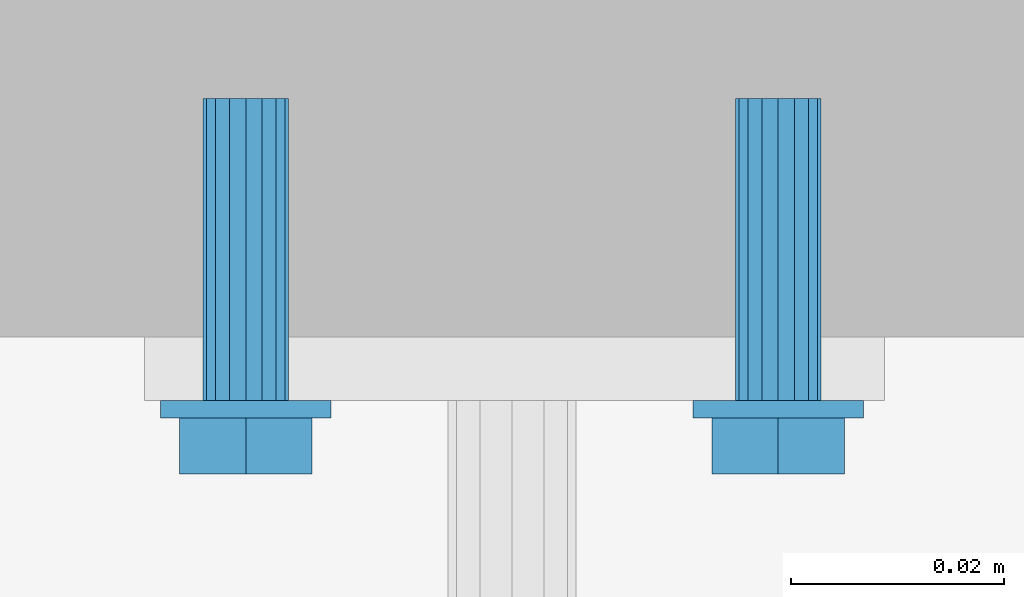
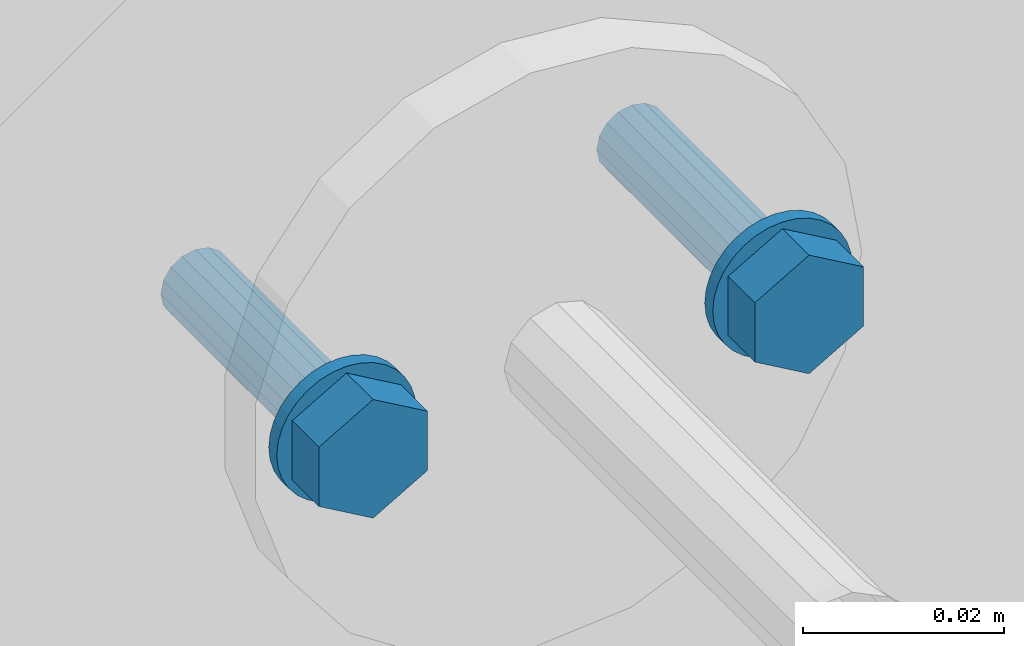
# One storey, part 368 of 410: 1 mechanical fastener.
"""IFC2X3 building model written with IfcOpenShell, lengths in millimetres."""

import ifcopenshell
import ifcopenshell.guid

model = None  # the IFC model being written
_history = None  # IfcOwnerHistory: only IFC2X3 demands one
_inside = {}  # id of a spatial element -> (the spatial element, [elements in it])
_under = {}  # id of a project, library or spatial element -> (it, [spatial elements below it])
_declared = {}  # id of a project -> (the project, [libraries it declares])
_typed = {}  # id of a type object -> (the type object, [elements of that type])
_made_of = {}  # id of a material, layer set ... -> (it, [elements and type objects made of it])


def new_model(schema):
    """Start an empty IFC model of exactly this schema.

    Asked for "IFC4X3", IfcOpenShell would pick the latest addendum, in which some entities
    have other attributes; the version numbers below select the first issue.
    IFC2X3 requires an IfcOwnerHistory on every rooted entity: one is made here for all.
    """
    global model, _history
    if schema == "IFC4X3":
        model = ifcopenshell.file(schema_version=(4, 3, 0, 0))
    else:
        model = ifcopenshell.file(schema=schema)
    _inside.clear()
    _under.clear()
    _declared.clear()
    _typed.clear()
    _made_of.clear()
    _history = None
    if model.schema == "IFC2X3":
        org = make("IfcOrganization", Name="unknown")
        user = make(
            "IfcPersonAndOrganization",
            ThePerson=make("IfcPerson", FamilyName="unknown"),
            TheOrganization=org,
        )
        app = make(
            "IfcApplication",
            ApplicationDeveloper=org,
            Version="unknown",
            ApplicationFullName="unknown",
            ApplicationIdentifier="unknown",
        )
        _history = make(
            "IfcOwnerHistory",
            OwningUser=user,
            OwningApplication=app,
            ChangeAction="ADDED",
            CreationDate=0,
        )
    return model


def make(cls, **values):
    """One entity of the class cls with the attributes given. An attribute that is None is left unset."""
    return model.create_entity(
        cls, **{name: value for name, value in values.items() if value is not None}
    )


def entity(cls, *values):
    """Any entity or typed value of the class cls, its attributes in the order of the schema. None: left unset."""
    e = model.create_entity(cls)
    for i, value in enumerate(values):
        if value is not None:
            e[i] = value
    return e


def rooted(cls, **values):
    """An entity with a GlobalId (a new one), such as an element, a storey or a relation."""
    return make(cls, GlobalId=ifcopenshell.guid.new(), OwnerHistory=_history, **values)


def si_unit(unit_type, name, prefix=None):
    """IfcSIUnit, for example si_unit("LENGTHUNIT", "METRE", prefix="MILLI")."""
    return make("IfcSIUnit", UnitType=unit_type, Prefix=prefix, Name=name)


def converted_unit(unit_type, name, factor, base, dimensions=None, offset=None):
    """IfcConversionBasedUnit, such as the inch: factor (a typed value) times the base unit."""
    return make(
        "IfcConversionBasedUnit"
        if offset is None
        else "IfcConversionBasedUnitWithOffset",
        ConversionOffset=offset,
        Dimensions=None
        if dimensions is None
        else entity("IfcDimensionalExponents", *dimensions),
        UnitType=unit_type,
        Name=name,
        ConversionFactor=make(
            "IfcMeasureWithUnit", ValueComponent=factor, UnitComponent=base
        ),
    )


def assignment(units):
    """IfcUnitAssignment: the units of a project."""
    return None if units is None else make("IfcUnitAssignment", Units=units)


def point(xyz):
    """IfcCartesianPoint."""
    return None if xyz is None else make("IfcCartesianPoint", Coordinates=xyz)


def direction(xyz):
    """IfcDirection."""
    return None if xyz is None else make("IfcDirection", DirectionRatios=xyz)


def frame(location, z_axis=None, x_axis=None):
    """IfcAxis2Placement3D, a coordinate frame: its origin and axes. An axis left out is left unset."""
    return make(
        "IfcAxis2Placement3D",
        Location=point(location),
        Axis=direction(z_axis),
        RefDirection=direction(x_axis),
    )


def origin_with_axes():
    """The frame at (0, 0, 0) with the z axis (0, 0, 1) and the x axis (1, 0, 0) written out."""
    return frame((0.0, 0.0, 0.0), z_axis=(0.0, 0.0, 1.0), x_axis=(1.0, 0.0, 0.0))


def place(relative_to, where):
    """IfcLocalPlacement: puts the frame where relative to a parent placement (None: the world)."""
    return make(
        "IfcLocalPlacement", PlacementRelTo=relative_to, RelativePlacement=where
    )


def context(
    kind, dimensions, precision=None, world=None, true_north=None, identifier=None
):
    """IfcGeometricRepresentationContext, for example the 3D "Model" context."""
    return make(
        "IfcGeometricRepresentationContext",
        ContextIdentifier=identifier,
        ContextType=kind,
        CoordinateSpaceDimension=dimensions,
        Precision=precision,
        WorldCoordinateSystem=world,
        TrueNorth=true_north,
    )


def project(units=None, contexts=None):
    """IfcProject with its units and contexts."""
    return rooted(
        "IfcProject",
        Name="project",
        RepresentationContexts=contexts,
        UnitsInContext=assignment(units),
    )


def spatial(cls, under=None, at=None, **own):
    """A site, building, storey or space (cls), placed at a placement, below another one or the project."""
    s = rooted(cls, ObjectPlacement=at, **own)
    if under is not None:
        _under.setdefault(under.id(), (under, []))[1].append(s)
    return s


def faces_of(points, faces, orient=None, outer=None):
    """IfcFace entities. A face is a list of loops; a loop is a list of indices into points, from 0.

    orient and outer hold one flag for each loop. By default every Orientation is true, the
    first loop of a face is its IfcFaceOuterBound and the others are IfcFaceBound.
    """
    made = []
    for i, loops in enumerate(faces):
        bounds = []
        for j, loop in enumerate(loops):
            is_outer = j == 0 if outer is None else outer[i][j]
            bounds.append(
                make(
                    "IfcFaceOuterBound" if is_outer else "IfcFaceBound",
                    Bound=make("IfcPolyLoop", Polygon=[points[k] for k in loop]),
                    Orientation=True if orient is None else orient[i][j],
                )
            )
        made.append(make("IfcFace", Bounds=bounds))
    return made


def faceted_brep(points, faces, orient=None, outer=None, voids=None):
    """IfcFacetedBrep: a solid bounded by flat faces; with voids (closed shells), ...WithVoids."""
    shared = [point(p) for p in points]
    hull = make("IfcClosedShell", CfsFaces=faces_of(shared, faces, orient, outer))
    if voids is None:
        return make("IfcFacetedBrep", Outer=hull)
    return make(
        "IfcFacetedBrepWithVoids",
        Outer=hull,
        Voids=[
            make(cls, CfsFaces=faces_of(shared, fs, o, b)) for cls, fs, o, b in voids
        ],
    )


def shape(context_of_items, identifier, shape_type, items):
    """IfcShapeRepresentation: the items that make up one representation, for example the "Body"."""
    return make(
        "IfcShapeRepresentation",
        ContextOfItems=context_of_items,
        RepresentationIdentifier=identifier,
        RepresentationType=shape_type,
        Items=items,
    )


def made_of(thing, what):
    """Note that an element or type object is made of a material, layer set ...; save() writes the relation."""
    if what is not None:
        _made_of.setdefault(what.id(), (what, []))[1].append(thing)
    return thing


def element(
    cls,
    number,
    at=None,
    inside=None,
    cuts=None,
    type_object=None,
    material=None,
    context=None,
    identifier="Body",
    shape_type=None,
    held_by="IfcProductDefinitionShape",
    body=None,
    shapes=None,
    **own,
):
    """One element of the class cls, such as IfcWall. Its Tag is "e" and its number.

    at: its placement. inside: the storey or other place that contains it. cuts: it is an
    opening in that element (IfcRelVoidsElement). A single representation is given by context,
    identifier, shape_type and body (its items); several are given by shapes. held_by: the class
    of the entity that holds the representations. save() writes the other relations.
    """
    e = rooted(cls, Tag="e%d" % number, ObjectPlacement=at, **own)
    if body is not None:
        shapes = [shape(context, identifier, shape_type, body)]
    if shapes is not None:
        e.Representation = make(held_by, Representations=shapes)
    if inside is not None:
        _inside.setdefault(inside.id(), (inside, []))[1].append(e)
    if cuts is not None:
        rooted(
            "IfcRelVoidsElement", RelatingBuildingElement=cuts, RelatedOpeningElement=e
        )
    if type_object is not None:
        _typed.setdefault(type_object.id(), (type_object, []))[1].append(e)
    return made_of(e, material)


def aggregate(whole, parts):
    """IfcRelAggregates: a whole, such as a stair, and the parts it consists of."""
    return rooted("IfcRelAggregates", RelatingObject=whole, RelatedObjects=parts)


def save(model, path):
    """Write the relations noted so far, then the file.

    IfcRelAggregates (storeys below a building ...), IfcRelContainedInSpatialStructure (elements
    in a storey), IfcRelDefinesByType, IfcRelAssociatesMaterial and IfcRelDeclares: one each for
    every whole, place, type object, material and project.
    """
    for whole, parts in _under.values():
        aggregate(whole, parts)
    for where, things in _inside.values():
        rooted(
            "IfcRelContainedInSpatialStructure",
            RelatedElements=things,
            RelatingStructure=where,
        )
    for kind, things in _typed.values():
        rooted("IfcRelDefinesByType", RelatedObjects=things, RelatingType=kind)
    for what, things in _made_of.values():
        rooted("IfcRelAssociatesMaterial", RelatedObjects=things, RelatingMaterial=what)
    for by, libraries in _declared.values():
        rooted("IfcRelDeclares", RelatingContext=by, RelatedDefinitions=libraries)
    model.write(path)


model = new_model("IFC2X3")

# Units and contexts
model_context = context("Model", 3, precision=1e-09, world=origin_with_axes())
ifc_project = project(units=[si_unit("LENGTHUNIT", "METRE", prefix="MILLI"), si_unit("AREAUNIT", "SQUARE_METRE"), si_unit("VOLUMEUNIT", "CUBIC_METRE"), converted_unit("PLANEANGLEUNIT", "DEGREE", entity("IfcPlaneAngleMeasure", 0.01745329), si_unit("PLANEANGLEUNIT", "RADIAN"), dimensions=[0, 0, 0, 0, 0, 0, 0])], contexts=[model_context])

# Site, building, storey
site_placement = place(None, origin_with_axes())
site = spatial("IfcSite", under=ifc_project, at=site_placement, Name="mKR Teilneubau & Sanierung BA1 - Ostfildern", CompositionType="ELEMENT")
building_placement = place(site_placement, origin_with_axes())
building = spatial("IfcBuilding", under=site, at=building_placement, Name="Struktur 1", CompositionType="ELEMENT")
storey_placement = place(building_placement, origin_with_axes())
storey = spatial("IfcBuildingStorey", under=building, at=storey_placement, Name="Default Storey", CompositionType="ELEMENT", Elevation=0.0)

# Mechanical fastener
mechanical_fastener_placement = place(None, origin_with_axes())
element("IfcMechanicalFastener", 1, at=mechanical_fastener_placement, inside=storey, ObjectType="-", NominalDiameter=8.0, NominalLength=30.0, context=model_context, shape_type="Brep", body=[
    faceted_brep([(3126.999216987, 18612.400061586, 2645.6434785), (3126.999216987, 18614.000061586, 2645.6434785), (3127.152934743, 18614.000061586, 2644.082755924), (3127.152934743, 18612.400061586, 2644.082755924), (3127.608180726, 18614.000061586, 2642.582011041), (3127.608180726, 18612.400061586, 2642.582011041), (3128.347460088, 18614.000061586, 2641.198916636), (3128.347460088, 18612.400061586, 2641.198916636), (3129.342362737, 18614.000061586, 2639.98662425), (3129.342362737, 18612.400061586, 2639.98662425), (3130.554655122, 18614.000061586, 2638.991721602), (3130.554655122, 18612.400061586, 2638.991721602), (3131.937749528, 18614.000061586, 2638.25244224), (3131.937749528, 18612.400061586, 2638.25244224), (3133.43849441, 18614.000061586, 2637.797196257), (3133.43849441, 18612.400061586, 2637.797196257), (3134.999216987, 18614.000061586, 2637.6434785), (3134.999216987, 18612.400061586, 2637.6434785), (3136.559939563, 18614.000061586, 2637.797196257), (3136.559939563, 18612.400061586, 2637.797196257), (3138.060684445, 18614.000061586, 2638.25244224), (3138.060684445, 18612.400061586, 2638.25244224), (3139.443778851, 18614.000061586, 2638.991721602), (3139.443778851, 18612.400061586, 2638.991721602), (3140.656071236, 18614.000061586, 2639.98662425), (3140.656071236, 18612.400061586, 2639.98662425), (3141.650973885, 18614.000061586, 2641.198916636), (3141.650973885, 18612.400061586, 2641.198916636), (3142.390253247, 18614.000061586, 2642.582011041), (3142.390253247, 18612.400061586, 2642.582011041), (3142.84549923, 18614.000061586, 2644.082755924), (3142.84549923, 18612.400061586, 2644.082755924), (3142.999216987, 18614.000061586, 2645.6434785), (3142.999216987, 18612.400061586, 2645.6434785), (3142.84549923, 18614.000061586, 2647.204201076), (3142.84549923, 18612.400061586, 2647.204201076), (3142.390253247, 18614.000061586, 2648.704945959), (3142.390253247, 18612.400061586, 2648.704945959), (3141.650973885, 18614.000061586, 2650.088040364), (3141.650973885, 18612.400061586, 2650.088040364), (3140.656071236, 18614.000061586, 2651.300332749), (3140.656071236, 18612.400061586, 2651.300332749), (3139.443778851, 18614.000061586, 2652.295235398), (3139.443778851, 18612.400061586, 2652.295235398), (3138.060684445, 18614.000061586, 2653.03451476), (3138.060684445, 18612.400061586, 2653.03451476), (3136.559939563, 18614.000061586, 2653.489760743), (3136.559939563, 18612.400061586, 2653.489760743), (3134.999216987, 18614.000061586, 2653.6434785), (3134.999216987, 18612.400061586, 2653.6434785), (3133.43849441, 18614.000061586, 2653.489760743), (3133.43849441, 18612.400061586, 2653.489760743), (3131.937749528, 18614.000061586, 2653.03451476), (3131.937749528, 18612.400061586, 2653.03451476), (3130.554655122, 18614.000061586, 2652.295235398), (3130.554655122, 18612.400061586, 2652.295235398), (3129.342362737, 18614.000061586, 2651.300332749), (3129.342362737, 18612.400061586, 2651.300332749), (3128.347460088, 18614.000061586, 2650.088040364), (3128.347460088, 18612.400061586, 2650.088040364), (3127.608180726, 18614.000061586, 2648.704945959), (3127.608180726, 18612.400061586, 2648.704945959), (3127.152934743, 18614.000061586, 2647.204201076), (3127.152934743, 18612.400061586, 2647.204201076)], [[[0, 1, 2, 3]], [[3, 2, 4, 5]], [[5, 4, 6, 7]], [[7, 6, 8, 9]], [[9, 8, 10, 11]], [[11, 10, 12, 13]], [[13, 12, 14, 15]], [[15, 14, 16, 17]], [[17, 16, 18, 19]], [[19, 18, 20, 21]], [[21, 20, 22, 23]], [[23, 22, 24, 25]], [[25, 24, 26, 27]], [[27, 26, 28, 29]], [[29, 28, 30, 31]], [[31, 30, 32, 33]], [[33, 32, 34, 35]], [[35, 34, 36, 37]], [[37, 36, 38, 39]], [[39, 38, 40, 41]], [[41, 40, 42, 43]], [[43, 42, 44, 45]], [[45, 44, 46, 47]], [[47, 46, 48, 49]], [[49, 48, 50, 51]], [[51, 50, 52, 53]], [[53, 52, 54, 55]], [[55, 54, 56, 57]], [[57, 56, 58, 59]], [[59, 58, 60, 61]], [[61, 60, 62, 63]], [[63, 62, 1, 0]], [[0, 3, 5, 7, 9, 11, 13, 15, 17, 19, 21, 23, 25, 27, 29, 31, 33, 35, 37, 39, 41, 43, 45, 47, 49, 51, 53, 55, 57, 59, 61, 63]], [[1, 62, 60, 58, 56, 54, 52, 50, 48, 46, 44, 42, 40, 38, 36, 34, 32, 30, 28, 26, 24, 22, 20, 18, 16, 14, 12, 10, 8, 6, 4, 2]]]),
    faceted_brep([(3076.999216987, 18612.400061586, 2645.6434785), (3076.999216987, 18614.000061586, 2645.6434785), (3077.152934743, 18614.000061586, 2644.082755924), (3077.152934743, 18612.400061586, 2644.082755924), (3077.608180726, 18614.000061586, 2642.582011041), (3077.608180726, 18612.400061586, 2642.582011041), (3078.347460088, 18614.000061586, 2641.198916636), (3078.347460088, 18612.400061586, 2641.198916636), (3079.342362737, 18614.000061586, 2639.98662425), (3079.342362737, 18612.400061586, 2639.98662425), (3080.554655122, 18614.000061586, 2638.991721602), (3080.554655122, 18612.400061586, 2638.991721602), (3081.937749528, 18614.000061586, 2638.25244224), (3081.937749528, 18612.400061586, 2638.25244224), (3083.43849441, 18614.000061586, 2637.797196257), (3083.43849441, 18612.400061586, 2637.797196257), (3084.999216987, 18614.000061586, 2637.6434785), (3084.999216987, 18612.400061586, 2637.6434785), (3086.559939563, 18614.000061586, 2637.797196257), (3086.559939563, 18612.400061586, 2637.797196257), (3088.060684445, 18614.000061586, 2638.25244224), (3088.060684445, 18612.400061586, 2638.25244224), (3089.443778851, 18614.000061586, 2638.991721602), (3089.443778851, 18612.400061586, 2638.991721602), (3090.656071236, 18614.000061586, 2639.98662425), (3090.656071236, 18612.400061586, 2639.98662425), (3091.650973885, 18614.000061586, 2641.198916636), (3091.650973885, 18612.400061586, 2641.198916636), (3092.390253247, 18614.000061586, 2642.582011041), (3092.390253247, 18612.400061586, 2642.582011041), (3092.84549923, 18614.000061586, 2644.082755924), (3092.84549923, 18612.400061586, 2644.082755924), (3092.999216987, 18614.000061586, 2645.6434785), (3092.999216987, 18612.400061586, 2645.6434785), (3092.84549923, 18614.000061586, 2647.204201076), (3092.84549923, 18612.400061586, 2647.204201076), (3092.390253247, 18614.000061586, 2648.704945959), (3092.390253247, 18612.400061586, 2648.704945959), (3091.650973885, 18614.000061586, 2650.088040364), (3091.650973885, 18612.400061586, 2650.088040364), (3090.656071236, 18614.000061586, 2651.300332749), (3090.656071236, 18612.400061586, 2651.300332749), (3089.443778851, 18614.000061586, 2652.295235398), (3089.443778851, 18612.400061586, 2652.295235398), (3088.060684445, 18614.000061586, 2653.03451476), (3088.060684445, 18612.400061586, 2653.03451476), (3086.559939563, 18614.000061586, 2653.489760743), (3086.559939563, 18612.400061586, 2653.489760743), (3084.999216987, 18614.000061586, 2653.6434785), (3084.999216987, 18612.400061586, 2653.6434785), (3083.43849441, 18614.000061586, 2653.489760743), (3083.43849441, 18612.400061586, 2653.489760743), (3081.937749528, 18614.000061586, 2653.03451476), (3081.937749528, 18612.400061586, 2653.03451476), (3080.554655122, 18614.000061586, 2652.295235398), (3080.554655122, 18612.400061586, 2652.295235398), (3079.342362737, 18614.000061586, 2651.300332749), (3079.342362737, 18612.400061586, 2651.300332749), (3078.347460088, 18614.000061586, 2650.088040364), (3078.347460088, 18612.400061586, 2650.088040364), (3077.608180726, 18614.000061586, 2648.704945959), (3077.608180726, 18612.400061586, 2648.704945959), (3077.152934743, 18614.000061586, 2647.204201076), (3077.152934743, 18612.400061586, 2647.204201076)], [[[0, 1, 2, 3]], [[3, 2, 4, 5]], [[5, 4, 6, 7]], [[7, 6, 8, 9]], [[9, 8, 10, 11]], [[11, 10, 12, 13]], [[13, 12, 14, 15]], [[15, 14, 16, 17]], [[17, 16, 18, 19]], [[19, 18, 20, 21]], [[21, 20, 22, 23]], [[23, 22, 24, 25]], [[25, 24, 26, 27]], [[27, 26, 28, 29]], [[29, 28, 30, 31]], [[31, 30, 32, 33]], [[33, 32, 34, 35]], [[35, 34, 36, 37]], [[37, 36, 38, 39]], [[39, 38, 40, 41]], [[41, 40, 42, 43]], [[43, 42, 44, 45]], [[45, 44, 46, 47]], [[47, 46, 48, 49]], [[49, 48, 50, 51]], [[51, 50, 52, 53]], [[53, 52, 54, 55]], [[55, 54, 56, 57]], [[57, 56, 58, 59]], [[59, 58, 60, 61]], [[61, 60, 62, 63]], [[63, 62, 1, 0]], [[0, 3, 5, 7, 9, 11, 13, 15, 17, 19, 21, 23, 25, 27, 29, 31, 33, 35, 37, 39, 41, 43, 45, 47, 49, 51, 53, 55, 57, 59, 61, 63]], [[1, 62, 60, 58, 56, 54, 52, 50, 48, 46, 44, 42, 40, 38, 36, 34, 32, 30, 28, 26, 24, 22, 20, 18, 16, 14, 12, 10, 8, 6, 4, 2]]]),
    faceted_brep([(3141.22593964, 18612.400061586, 2642.0484785), (3141.22593964, 18607.100061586, 2642.0484785), (3134.999216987, 18607.100061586, 2638.4534785), (3134.999216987, 18612.400061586, 2638.4534785), (3128.772494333, 18607.100061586, 2642.0484785), (3128.772494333, 18612.400061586, 2642.0484785), (3128.772494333, 18607.100061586, 2649.2384785), (3128.772494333, 18612.400061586, 2649.2384785), (3134.999216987, 18607.100061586, 2652.8334785), (3134.999216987, 18612.400061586, 2652.8334785), (3141.22593964, 18607.100061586, 2649.2384785), (3141.22593964, 18612.400061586, 2649.2384785)], [[[0, 1, 2, 3]], [[3, 2, 4, 5]], [[5, 4, 6, 7]], [[7, 6, 8, 9]], [[9, 8, 10, 11]], [[11, 10, 1, 0]], [[4, 2, 1, 10, 8, 6]], [[0, 3, 5, 7, 9, 11]]]),
    faceted_brep([(3091.22593964, 18612.400061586, 2642.0484785), (3091.22593964, 18607.100061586, 2642.0484785), (3084.999216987, 18607.100061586, 2638.4534785), (3084.999216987, 18612.400061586, 2638.4534785), (3078.772494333, 18607.100061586, 2642.0484785), (3078.772494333, 18612.400061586, 2642.0484785), (3078.772494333, 18607.100061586, 2649.2384785), (3078.772494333, 18612.400061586, 2649.2384785), (3084.999216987, 18607.100061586, 2652.8334785), (3084.999216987, 18612.400061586, 2652.8334785), (3091.22593964, 18607.100061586, 2649.2384785), (3091.22593964, 18612.400061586, 2649.2384785)], [[[0, 1, 2, 3]], [[3, 2, 4, 5]], [[5, 4, 6, 7]], [[7, 6, 8, 9]], [[9, 8, 10, 11]], [[11, 10, 1, 0]], [[4, 2, 1, 10, 8, 6]], [[0, 3, 5, 7, 9, 11]]]),
    faceted_brep([(3130.999216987, 18614.000061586, 2645.6434785), (3130.999216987, 18624.000061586, 2645.6434785), (3131.303698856, 18624.000061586, 2644.112744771), (3131.303698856, 18614.000061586, 2644.112744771), (3132.170789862, 18624.000061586, 2642.815051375), (3132.170789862, 18614.000061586, 2642.815051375), (3133.468483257, 18624.000061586, 2641.94796037), (3133.468483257, 18614.000061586, 2641.94796037), (3134.999216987, 18624.000061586, 2641.6434785), (3134.999216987, 18614.000061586, 2641.6434785), (3136.529950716, 18624.000061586, 2641.94796037), (3136.529950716, 18614.000061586, 2641.94796037), (3137.827644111, 18624.000061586, 2642.815051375), (3137.827644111, 18614.000061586, 2642.815051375), (3138.694735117, 18624.000061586, 2644.112744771), (3138.694735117, 18614.000061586, 2644.112744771), (3138.999216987, 18624.000061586, 2645.6434785), (3138.999216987, 18614.000061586, 2645.6434785), (3138.694735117, 18624.000061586, 2647.174212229), (3138.694735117, 18614.000061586, 2647.174212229), (3137.827644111, 18624.000061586, 2648.471905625), (3137.827644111, 18614.000061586, 2648.471905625), (3136.529950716, 18624.000061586, 2649.33899663), (3136.529950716, 18614.000061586, 2649.33899663), (3134.999216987, 18624.000061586, 2649.6434785), (3134.999216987, 18614.000061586, 2649.6434785), (3133.468483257, 18624.000061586, 2649.33899663), (3133.468483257, 18614.000061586, 2649.33899663), (3132.170789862, 18624.000061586, 2648.471905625), (3132.170789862, 18614.000061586, 2648.471905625), (3131.303698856, 18624.000061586, 2647.174212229), (3131.303698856, 18614.000061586, 2647.174212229)], [[[0, 1, 2, 3]], [[3, 2, 4, 5]], [[5, 4, 6, 7]], [[7, 6, 8, 9]], [[9, 8, 10, 11]], [[11, 10, 12, 13]], [[13, 12, 14, 15]], [[15, 14, 16, 17]], [[17, 16, 18, 19]], [[19, 18, 20, 21]], [[21, 20, 22, 23]], [[23, 22, 24, 25]], [[25, 24, 26, 27]], [[27, 26, 28, 29]], [[29, 28, 30, 31]], [[31, 30, 1, 0]], [[0, 3, 5, 7, 9, 11, 13, 15, 17, 19, 21, 23, 25, 27, 29, 31]], [[1, 30, 28, 26, 24, 22, 20, 18, 16, 14, 12, 10, 8, 6, 4, 2]]]),
    faceted_brep([(3080.999216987, 18614.000061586, 2645.6434785), (3080.999216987, 18624.000061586, 2645.6434785), (3081.303698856, 18624.000061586, 2644.112744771), (3081.303698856, 18614.000061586, 2644.112744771), (3082.170789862, 18624.000061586, 2642.815051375), (3082.170789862, 18614.000061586, 2642.815051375), (3083.468483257, 18624.000061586, 2641.94796037), (3083.468483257, 18614.000061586, 2641.94796037), (3084.999216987, 18624.000061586, 2641.6434785), (3084.999216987, 18614.000061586, 2641.6434785), (3086.529950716, 18624.000061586, 2641.94796037), (3086.529950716, 18614.000061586, 2641.94796037), (3087.827644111, 18624.000061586, 2642.815051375), (3087.827644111, 18614.000061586, 2642.815051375), (3088.694735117, 18624.000061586, 2644.112744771), (3088.694735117, 18614.000061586, 2644.112744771), (3088.999216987, 18624.000061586, 2645.6434785), (3088.999216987, 18614.000061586, 2645.6434785), (3088.694735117, 18624.000061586, 2647.174212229), (3088.694735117, 18614.000061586, 2647.174212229), (3087.827644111, 18624.000061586, 2648.471905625), (3087.827644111, 18614.000061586, 2648.471905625), (3086.529950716, 18624.000061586, 2649.33899663), (3086.529950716, 18614.000061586, 2649.33899663), (3084.999216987, 18624.000061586, 2649.6434785), (3084.999216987, 18614.000061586, 2649.6434785), (3083.468483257, 18624.000061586, 2649.33899663), (3083.468483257, 18614.000061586, 2649.33899663), (3082.170789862, 18624.000061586, 2648.471905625), (3082.170789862, 18614.000061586, 2648.471905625), (3081.303698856, 18624.000061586, 2647.174212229), (3081.303698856, 18614.000061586, 2647.174212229)], [[[0, 1, 2, 3]], [[3, 2, 4, 5]], [[5, 4, 6, 7]], [[7, 6, 8, 9]], [[9, 8, 10, 11]], [[11, 10, 12, 13]], [[13, 12, 14, 15]], [[15, 14, 16, 17]], [[17, 16, 18, 19]], [[19, 18, 20, 21]], [[21, 20, 22, 23]], [[23, 22, 24, 25]], [[25, 24, 26, 27]], [[27, 26, 28, 29]], [[29, 28, 30, 31]], [[31, 30, 1, 0]], [[0, 3, 5, 7, 9, 11, 13, 15, 17, 19, 21, 23, 25, 27, 29, 31]], [[1, 30, 28, 26, 24, 22, 20, 18, 16, 14, 12, 10, 8, 6, 4, 2]]]),
    faceted_brep([(3130.999216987, 18624.000061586, 2645.6434785), (3130.999216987, 18642.400061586, 2645.6434785), (3131.303698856, 18642.400061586, 2644.112744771), (3131.303698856, 18624.000061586, 2644.112744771), (3132.170789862, 18642.400061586, 2642.815051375), (3132.170789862, 18624.000061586, 2642.815051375), (3133.468483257, 18642.400061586, 2641.94796037), (3133.468483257, 18624.000061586, 2641.94796037), (3134.999216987, 18642.400061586, 2641.6434785), (3134.999216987, 18624.000061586, 2641.6434785), (3136.529950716, 18642.400061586, 2641.94796037), (3136.529950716, 18624.000061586, 2641.94796037), (3137.827644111, 18642.400061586, 2642.815051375), (3137.827644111, 18624.000061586, 2642.815051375), (3138.694735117, 18642.400061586, 2644.112744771), (3138.694735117, 18624.000061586, 2644.112744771), (3138.999216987, 18642.400061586, 2645.6434785), (3138.999216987, 18624.000061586, 2645.6434785), (3138.694735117, 18642.400061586, 2647.174212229), (3138.694735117, 18624.000061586, 2647.174212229), (3137.827644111, 18642.400061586, 2648.471905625), (3137.827644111, 18624.000061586, 2648.471905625), (3136.529950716, 18642.400061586, 2649.33899663), (3136.529950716, 18624.000061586, 2649.33899663), (3134.999216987, 18642.400061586, 2649.6434785), (3134.999216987, 18624.000061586, 2649.6434785), (3133.468483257, 18642.400061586, 2649.33899663), (3133.468483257, 18624.000061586, 2649.33899663), (3132.170789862, 18642.400061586, 2648.471905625), (3132.170789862, 18624.000061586, 2648.471905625), (3131.303698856, 18642.400061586, 2647.174212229), (3131.303698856, 18624.000061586, 2647.174212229)], [[[0, 1, 2, 3]], [[3, 2, 4, 5]], [[5, 4, 6, 7]], [[7, 6, 8, 9]], [[9, 8, 10, 11]], [[11, 10, 12, 13]], [[13, 12, 14, 15]], [[15, 14, 16, 17]], [[17, 16, 18, 19]], [[19, 18, 20, 21]], [[21, 20, 22, 23]], [[23, 22, 24, 25]], [[25, 24, 26, 27]], [[27, 26, 28, 29]], [[29, 28, 30, 31]], [[31, 30, 1, 0]], [[0, 3, 5, 7, 9, 11, 13, 15, 17, 19, 21, 23, 25, 27, 29, 31]], [[1, 30, 28, 26, 24, 22, 20, 18, 16, 14, 12, 10, 8, 6, 4, 2]]]),
    faceted_brep([(3080.999216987, 18624.000061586, 2645.6434785), (3080.999216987, 18642.400061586, 2645.6434785), (3081.303698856, 18642.400061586, 2644.112744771), (3081.303698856, 18624.000061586, 2644.112744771), (3082.170789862, 18642.400061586, 2642.815051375), (3082.170789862, 18624.000061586, 2642.815051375), (3083.468483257, 18642.400061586, 2641.94796037), (3083.468483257, 18624.000061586, 2641.94796037), (3084.999216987, 18642.400061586, 2641.6434785), (3084.999216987, 18624.000061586, 2641.6434785), (3086.529950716, 18642.400061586, 2641.94796037), (3086.529950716, 18624.000061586, 2641.94796037), (3087.827644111, 18642.400061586, 2642.815051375), (3087.827644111, 18624.000061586, 2642.815051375), (3088.694735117, 18642.400061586, 2644.112744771), (3088.694735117, 18624.000061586, 2644.112744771), (3088.999216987, 18642.400061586, 2645.6434785), (3088.999216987, 18624.000061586, 2645.6434785), (3088.694735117, 18642.400061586, 2647.174212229), (3088.694735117, 18624.000061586, 2647.174212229), (3087.827644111, 18642.400061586, 2648.471905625), (3087.827644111, 18624.000061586, 2648.471905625), (3086.529950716, 18642.400061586, 2649.33899663), (3086.529950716, 18624.000061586, 2649.33899663), (3084.999216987, 18642.400061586, 2649.6434785), (3084.999216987, 18624.000061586, 2649.6434785), (3083.468483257, 18642.400061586, 2649.33899663), (3083.468483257, 18624.000061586, 2649.33899663), (3082.170789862, 18642.400061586, 2648.471905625), (3082.170789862, 18624.000061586, 2648.471905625), (3081.303698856, 18642.400061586, 2647.174212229), (3081.303698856, 18624.000061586, 2647.174212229)], [[[0, 1, 2, 3]], [[3, 2, 4, 5]], [[5, 4, 6, 7]], [[7, 6, 8, 9]], [[9, 8, 10, 11]], [[11, 10, 12, 13]], [[13, 12, 14, 15]], [[15, 14, 16, 17]], [[17, 16, 18, 19]], [[19, 18, 20, 21]], [[21, 20, 22, 23]], [[23, 22, 24, 25]], [[25, 24, 26, 27]], [[27, 26, 28, 29]], [[29, 28, 30, 31]], [[31, 30, 1, 0]], [[0, 3, 5, 7, 9, 11, 13, 15, 17, 19, 21, 23, 25, 27, 29, 31]], [[1, 30, 28, 26, 24, 22, 20, 18, 16, 14, 12, 10, 8, 6, 4, 2]]]),
])

save(model, "model.ifc")
